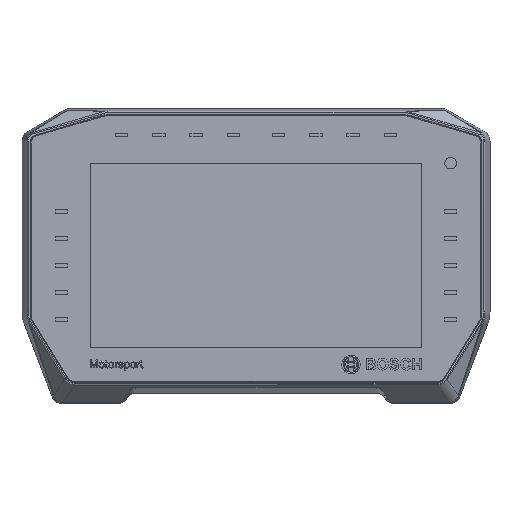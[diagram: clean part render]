
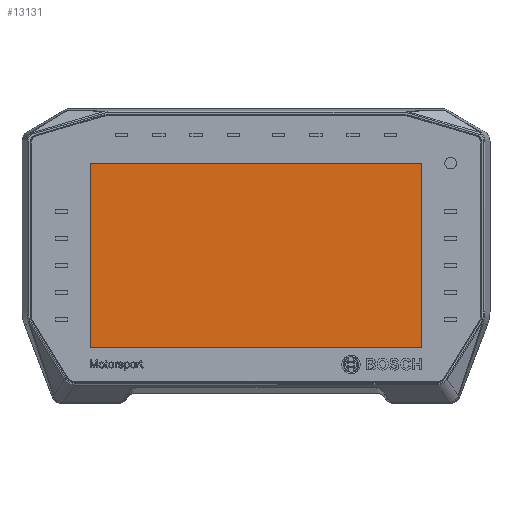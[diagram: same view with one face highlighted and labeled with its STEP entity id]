
A CAD part, top view. The second image highlights one B-rep face of the part: STEP entity #13131.
In plain terms, the highlighted planar face has unit normal (0, 0, 1).
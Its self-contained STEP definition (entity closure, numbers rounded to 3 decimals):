
#13131=ADVANCED_FACE('',(#16525),#15471,.F.);
#15471=PLANE('',#53085);
#16525=FACE_OUTER_BOUND('',#18853,.T.);
#18853=EDGE_LOOP('',(#25180,#25181,#25182,#25183));
#25180=ORIENTED_EDGE('',*,*,#42179,.T.);
#25181=ORIENTED_EDGE('',*,*,#42176,.T.);
#25182=ORIENTED_EDGE('',*,*,#42185,.T.);
#25183=ORIENTED_EDGE('',*,*,#42182,.T.);
#37057=VERTEX_POINT('',#71524);
#37058=VERTEX_POINT('',#71526);
#37060=VERTEX_POINT('',#71532);
#37062=VERTEX_POINT('',#71538);
#42176=EDGE_CURVE('',#37058,#37057,#48503,.T.);
#42179=EDGE_CURVE('',#37060,#37058,#48506,.T.);
#42182=EDGE_CURVE('',#37062,#37060,#48509,.T.);
#42185=EDGE_CURVE('',#37057,#37062,#48512,.T.);
#48503=LINE('',#71525,#51079);
#48506=LINE('',#71531,#51082);
#48509=LINE('',#71537,#51085);
#48512=LINE('',#71542,#51088);
#51079=VECTOR('',#58635,1.);
#51082=VECTOR('',#58640,1.);
#51085=VECTOR('',#58645,1.);
#51088=VECTOR('',#58650,1.);
#53085=AXIS2_PLACEMENT_3D('',#71544,#58653,#58654);
#58635=DIRECTION('',(0.,-1.,0.));
#58640=DIRECTION('',(-1.,0.,0.));
#58645=DIRECTION('',(0.,1.,0.));
#58650=DIRECTION('',(1.,0.,0.));
#58653=DIRECTION('',(0.,0.,-1.));
#58654=DIRECTION('',(-1.,0.,0.));
#71524=CARTESIAN_POINT('',(-71.9,-48.09,13.05));
#71525=CARTESIAN_POINT('',(-71.9,-48.09,13.05));
#71526=CARTESIAN_POINT('',(-71.9,31.63,13.05));
#71531=CARTESIAN_POINT('',(-71.9,31.63,13.05));
#71532=CARTESIAN_POINT('',(71.9,31.63,13.05));
#71537=CARTESIAN_POINT('',(71.9,31.63,13.05));
#71538=CARTESIAN_POINT('',(71.9,-48.09,13.05));
#71542=CARTESIAN_POINT('',(71.9,-48.09,13.05));
#71544=CARTESIAN_POINT('',(0.,0.,13.05));
